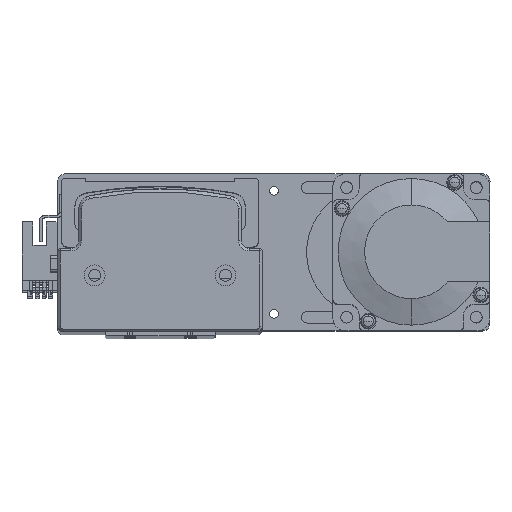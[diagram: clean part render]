
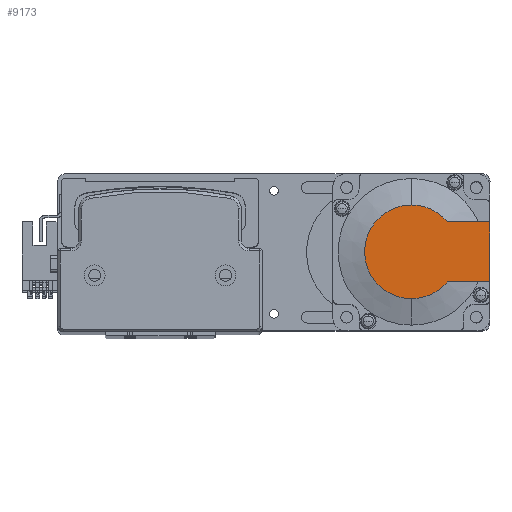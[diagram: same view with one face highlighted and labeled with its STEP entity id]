
A CAD part, top view. The second image highlights one B-rep face of the part: STEP entity #9173.
In plain terms, the highlighted planar face has unit normal (0, 0, 1) as drawn and (-1, 0, 0) by its records, which use the part's own axes.
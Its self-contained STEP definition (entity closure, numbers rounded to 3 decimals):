
#579 = CARTESIAN_POINT ( 'NONE',  ( -118.5, 13.735, -11.45 ) ) ;
#1031 = CARTESIAN_POINT ( 'NONE',  ( -118.5, -8.941, -11.45 ) ) ;
#1126 = ORIENTED_EDGE ( 'NONE', *, *, #3880, .T. ) ;
#2461 = CARTESIAN_POINT ( 'NONE',  ( -118.5, 30., 25. ) ) ;
#3450 = EDGE_CURVE ( 'NONE', #9587, #47115, #32889, .T. ) ;
#3880 = EDGE_CURVE ( 'NONE', #40004, #36958, #40626, .T. ) ;
#4897 = DIRECTION ( 'NONE',  ( 0., -1., 0. ) ) ;
#5991 = DIRECTION ( 'NONE',  ( -1., 0., 0. ) ) ;
#7815 = AXIS2_PLACEMENT_3D ( 'NONE', #29076, #5991, #32931 ) ;
#9173 = ADVANCED_FACE ( 'NONE', ( #34179 ), #12840, .T. ) ;
#9587 = VERTEX_POINT ( 'NONE', #27809 ) ;
#9826 = CARTESIAN_POINT ( 'NONE',  ( -118.5, 0., 0. ) ) ;
#10925 = EDGE_CURVE ( 'NONE', #47115, #36958, #24281, .T. ) ;
#11476 = CARTESIAN_POINT ( 'NONE',  ( -118.5, 13.735, 11.45 ) ) ;
#12818 = CIRCLE ( 'NONE', #31238, 17.881 ) ;
#12840 = PLANE ( 'NONE',  #7815 ) ;
#13448 = ORIENTED_EDGE ( 'NONE', *, *, #40689, .T. ) ;
#13721 = DIRECTION ( 'NONE',  ( 0., 0., -1. ) ) ;
#14131 = CARTESIAN_POINT ( 'NONE',  ( -118.5, 0., 11.45 ) ) ;
#16867 = ORIENTED_EDGE ( 'NONE', *, *, #29165, .T. ) ;
#17716 = DIRECTION ( 'NONE',  ( 0., 0., 1. ) ) ;
#18006 = DIRECTION ( 'NONE',  ( 0., -1., 0. ) ) ;
#19539 = DIRECTION ( 'NONE',  ( -1., 0., 0. ) ) ;
#21218 = CARTESIAN_POINT ( 'NONE',  ( -118.5, 0., 17.881 ) ) ;
#21417 = AXIS2_PLACEMENT_3D ( 'NONE', #42551, #19539, #46434 ) ;
#21608 = VERTEX_POINT ( 'NONE', #22802 ) ;
#22457 = CARTESIAN_POINT ( 'NONE',  ( -118.5, 0., 0. ) ) ;
#22802 = CARTESIAN_POINT ( 'NONE',  ( -118.5, 0., -17.881 ) ) ;
#23062 = VECTOR ( 'NONE', #18006, 1000. ) ;
#23703 = AXIS2_PLACEMENT_3D ( 'NONE', #22457, #49351, #26337 ) ;
#23733 = LINE ( 'NONE', #1031, #44157 ) ;
#24281 = LINE ( 'NONE', #14131, #23062 ) ;
#26337 = DIRECTION ( 'NONE',  ( 0., 0., -1. ) ) ;
#27809 = CARTESIAN_POINT ( 'NONE',  ( -118.5, 30., -11.45 ) ) ;
#29076 = CARTESIAN_POINT ( 'NONE',  ( -118.5, -8.941, 0. ) ) ;
#29165 = EDGE_CURVE ( 'NONE', #9587, #46188, #23733, .T. ) ;
#30359 = CIRCLE ( 'NONE', #21417, 17.881 ) ;
#31238 = AXIS2_PLACEMENT_3D ( 'NONE', #9826, #36778, #13721 ) ;
#31701 = EDGE_LOOP ( 'NONE', ( #16867, #37888, #13448, #1126, #46901, #34785 ) ) ;
#32889 = LINE ( 'NONE', #2461, #41883 ) ;
#32931 = DIRECTION ( 'NONE',  ( 0., 0., 1. ) ) ;
#34179 = FACE_OUTER_BOUND ( 'NONE', #31701, .T. ) ;
#34785 = ORIENTED_EDGE ( 'NONE', *, *, #3450, .F. ) ;
#36778 = DIRECTION ( 'NONE',  ( -1., 0., 0. ) ) ;
#36958 = VERTEX_POINT ( 'NONE', #11476 ) ;
#37888 = ORIENTED_EDGE ( 'NONE', *, *, #43665, .T. ) ;
#40004 = VERTEX_POINT ( 'NONE', #21218 ) ;
#40626 = CIRCLE ( 'NONE', #23703, 17.881 ) ;
#40689 = EDGE_CURVE ( 'NONE', #21608, #40004, #12818, .T. ) ;
#41883 = VECTOR ( 'NONE', #17716, 1000. ) ;
#42551 = CARTESIAN_POINT ( 'NONE',  ( -118.5, 0., 0. ) ) ;
#43665 = EDGE_CURVE ( 'NONE', #46188, #21608, #30359, .T. ) ;
#44157 = VECTOR ( 'NONE', #4897, 1000. ) ;
#46188 = VERTEX_POINT ( 'NONE', #579 ) ;
#46434 = DIRECTION ( 'NONE',  ( 0., 0., -1. ) ) ;
#46496 = CARTESIAN_POINT ( 'NONE',  ( -118.5, 30., 11.45 ) ) ;
#46901 = ORIENTED_EDGE ( 'NONE', *, *, #10925, .F. ) ;
#47115 = VERTEX_POINT ( 'NONE', #46496 ) ;
#49351 = DIRECTION ( 'NONE',  ( -1., 0., 0. ) ) ;
